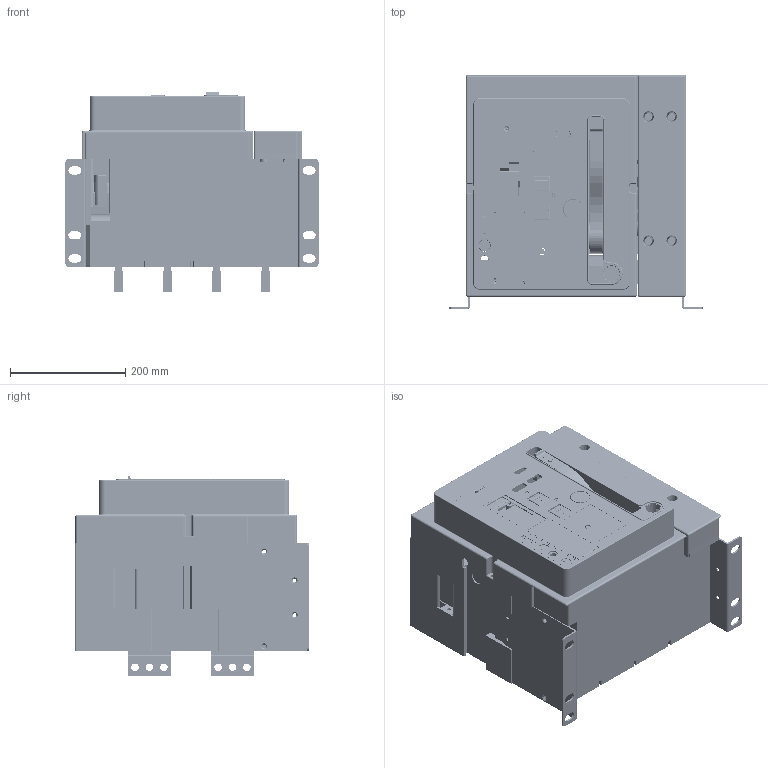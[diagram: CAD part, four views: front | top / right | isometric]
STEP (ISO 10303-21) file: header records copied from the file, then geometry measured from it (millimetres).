
FILE_DESCRIPTION((''),'2;1');
FILE_NAME('HG_06_A204V_FIX_ASM_ASM_ASM','2019-03-29T',('HHI'),(''),'PRO/ENGINEER BY PARAMETRIC TECHNOLOGY CORPORATION, 2012453','PRO/ENGINEER BY PARAMETRIC TECHNOLOGY CORPORATION, 2012453','');
FILE_SCHEMA(('CONFIG_CONTROL_DESIGN'));
Products named in the file (27): PRT0331; PRT0332; PRT0333; PRT0334; PRT0335; PRT0336; PRT0337; ASM0022_ASM_ASM; PRT0338; PRT0339; PRT0340; ASM0023_ASM_ASM; PRT0341; PRT0342; ASM0021_ASM_ASM; PRT0343; ASM0020_ASM_ASM; PRT0344; PRT0345; ASM0019_ASM_ASM; PRT0346; A204V_FIX_ASM_1_ASM_ASM; PRT0347; ASM0074_ASM; 4AT-06477S03; 4AT-06477S04; HG_06_A204V_FIX_ASM_ASM_ASM
Assembly tree (36 placements, depth 8):
  HG_06_A204V_FIX_ASM_ASM_ASM
    ASM0074_ASM
      A204V_FIX_ASM_1_ASM_ASM
        ASM0019_ASM_ASM
          PRT0331
          PRT0332
          PRT0333  x4
          ASM0020_ASM_ASM
            ASM0021_ASM_ASM
              ASM0022_ASM_ASM
                PRT0334
                PRT0335
                PRT0336
                PRT0337
              ASM0023_ASM_ASM
                PRT0338
                PRT0339
                PRT0340
              PRT0341
              PRT0342
            PRT0343
          PRT0344
          PRT0345
        PRT0346  x8
      PRT0347
    4AT-06477S03
    4AT-06477S04
Bounding box: 438.4 x 404.4 x 346.23 mm (x, y, z)
Volume: 8187033.7 mm3; surface area: 3027349 mm2
Topology: 29 solids, 56 shells, 7759 faces, 22007 edges, 14530 vertices
Faces by surface type: plane 5012, cylinder 2048, torus 252, extrusion 175, cone 133, sphere 76, bspline 63
Entity records: 248292 total; most frequent: CARTESIAN_POINT 51094, ORIENTED_EDGE 41936, DIRECTION 39670, EDGE_CURVE 21111, VECTOR 15572, LINE 15397, VERTEX_POINT 13962, AXIS2_PLACEMENT_3D 12049
